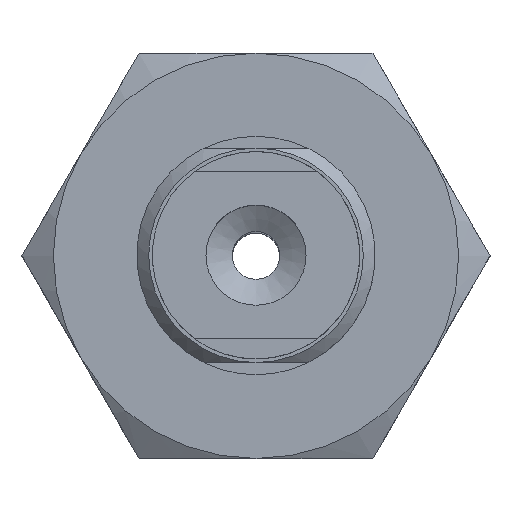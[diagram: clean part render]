
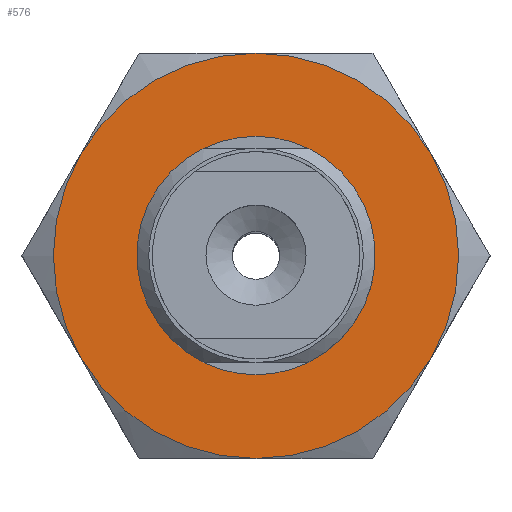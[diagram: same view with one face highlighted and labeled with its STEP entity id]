
A CAD part, top view. The second image highlights one B-rep face of the part: STEP entity #576.
In plain terms, the highlighted planar face has unit normal (0, 0, 1).
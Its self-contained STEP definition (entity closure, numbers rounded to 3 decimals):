
#576=ADVANCED_FACE('',(#847,#848),#849,.T.);
#847=FACE_BOUND('',#1243,.T.);
#848=FACE_OUTER_BOUND('',#1244,.T.);
#849=PLANE('',#1245);
#1243=EDGE_LOOP('',(#1931));
#1244=EDGE_LOOP('',(#1932,#1933,#1934,#1935,#1936,#1937));
#1245=AXIS2_PLACEMENT_3D('',#1938,#1939,#1940);
#1931=ORIENTED_EDGE('',*,*,#2760,.F.);
#1932=ORIENTED_EDGE('',*,*,#2765,.F.);
#1933=ORIENTED_EDGE('',*,*,#2767,.F.);
#1934=ORIENTED_EDGE('',*,*,#2746,.F.);
#1935=ORIENTED_EDGE('',*,*,#2741,.F.);
#1936=ORIENTED_EDGE('',*,*,#2769,.F.);
#1937=ORIENTED_EDGE('',*,*,#2766,.F.);
#1938=CARTESIAN_POINT('',(-9.815,-8.5,4.0));
#1939=DIRECTION('',(0.0,0.0,1.0));
#1940=DIRECTION('',(1.0,0.0,0.0));
#2741=EDGE_CURVE('',#3136,#3139,#3140,.T.);
#2746=EDGE_CURVE('',#3139,#3124,#3146,.T.);
#2760=EDGE_CURVE('',#3170,#3170,#3171,.T.);
#2765=EDGE_CURVE('',#3165,#3174,#3177,.T.);
#2766=EDGE_CURVE('',#3174,#3159,#3178,.T.);
#2767=EDGE_CURVE('',#3124,#3165,#3179,.T.);
#2769=EDGE_CURVE('',#3159,#3136,#3181,.T.);
#3124=VERTEX_POINT('',#3810);
#3136=VERTEX_POINT('',#3840);
#3139=VERTEX_POINT('',#3851);
#3140=CIRCLE('',#3852,8.5);
#3146=CIRCLE('',#3874,8.5);
#3159=VERTEX_POINT('',#3904);
#3165=VERTEX_POINT('',#3923);
#3170=VERTEX_POINT('',#3936);
#3171=CIRCLE('',#3937,4.5);
#3174=VERTEX_POINT('',#3944);
#3177=CIRCLE('',#3955,8.5);
#3178=CIRCLE('',#3956,8.5);
#3179=CIRCLE('',#3957,8.5);
#3181=CIRCLE('',#3959,8.5);
#3810=CARTESIAN_POINT('',(7.361,-4.25,4.0));
#3840=CARTESIAN_POINT('',(0.,8.5,4.0));
#3851=CARTESIAN_POINT('',(7.361,4.25,4.0));
#3852=AXIS2_PLACEMENT_3D('',#4631,#4632,#4633);
#3874=AXIS2_PLACEMENT_3D('',#4634,#4635,#4636);
#3904=CARTESIAN_POINT('',(-7.361,4.25,4.0));
#3923=CARTESIAN_POINT('',(0.,-8.5,4.0));
#3936=CARTESIAN_POINT('',(0.0,-4.5,4.0));
#3937=AXIS2_PLACEMENT_3D('',#4645,#4646,#4647);
#3944=CARTESIAN_POINT('',(-7.361,-4.25,4.0));
#3955=AXIS2_PLACEMENT_3D('',#4651,#4652,#4653);
#3956=AXIS2_PLACEMENT_3D('',#4654,#4655,#4656);
#3957=AXIS2_PLACEMENT_3D('',#4657,#4658,#4659);
#3959=AXIS2_PLACEMENT_3D('',#4663,#4664,#4665);
#4631=CARTESIAN_POINT('',(0.,0.,4.0));
#4632=DIRECTION('',(0.,0.,-1.0));
#4633=DIRECTION('',(0.866,0.5,0.));
#4634=CARTESIAN_POINT('',(0.,0.,4.0));
#4635=DIRECTION('',(0.,0.,-1.0));
#4636=DIRECTION('',(0.866,0.5,0.));
#4645=CARTESIAN_POINT('',(0.0,0.0,4.0));
#4646=DIRECTION('',(0.0,0.,1.0));
#4647=DIRECTION('',(0.0,-1.0,0.));
#4651=CARTESIAN_POINT('',(0.,0.,4.0));
#4652=DIRECTION('',(0.,0.,-1.0));
#4653=DIRECTION('',(0.866,0.5,0.));
#4654=CARTESIAN_POINT('',(0.,0.,4.0));
#4655=DIRECTION('',(0.,0.,-1.0));
#4656=DIRECTION('',(0.866,0.5,0.));
#4657=CARTESIAN_POINT('',(0.,0.,4.0));
#4658=DIRECTION('',(0.,0.,-1.0));
#4659=DIRECTION('',(0.866,0.5,0.));
#4663=CARTESIAN_POINT('',(0.,0.,4.0));
#4664=DIRECTION('',(0.,0.,-1.0));
#4665=DIRECTION('',(0.866,0.5,0.));
